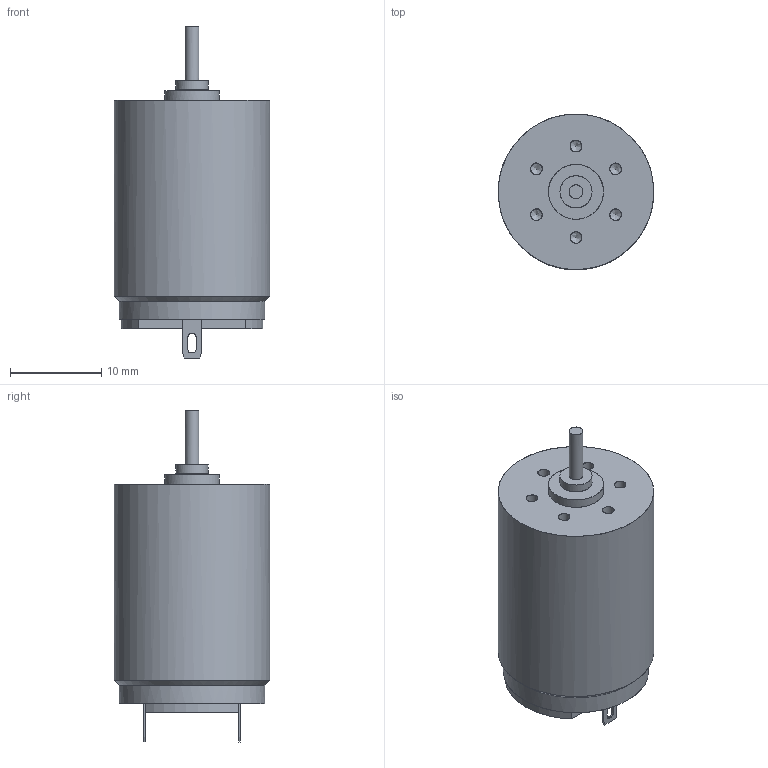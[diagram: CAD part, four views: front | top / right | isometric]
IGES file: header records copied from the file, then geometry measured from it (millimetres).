
Global section: file name: E:\WORK\MISC\DI\MOTORS\2011-11-25\1724TSR.igs; native system: NX V7.5; preprocessor: SIEMENS PLM Software NX 7.5; date: 20111221.230508; units: millimetre
Bounding box: 17 x 17 x 36.3 mm (x, y, z)
Surface area: 1908.1 mm2 (no closed solid volume)
Topology: 0 solids, 0 shells, 54 faces, 454 edges, 497 vertices
Faces by surface type: bspline 54
